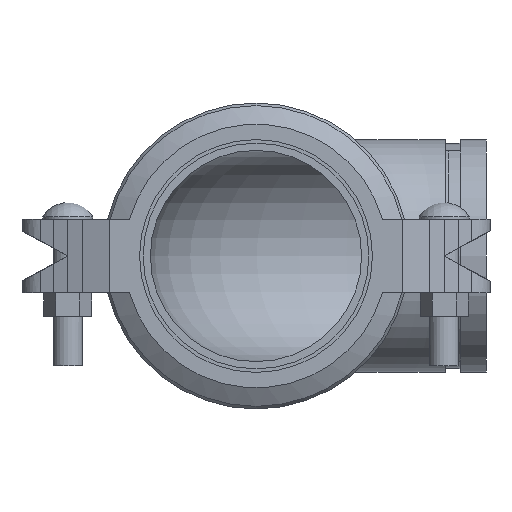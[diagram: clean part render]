
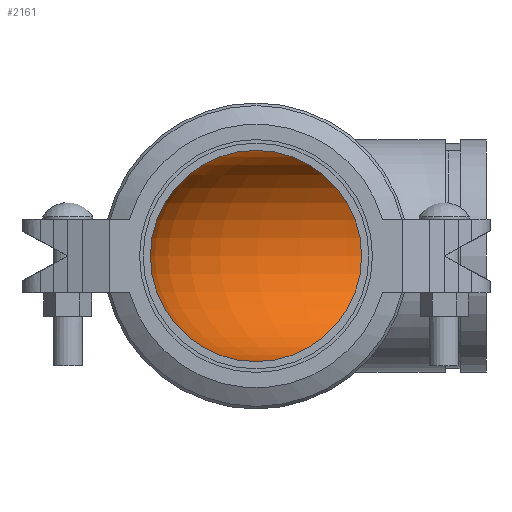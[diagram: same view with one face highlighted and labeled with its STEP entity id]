
A CAD part, left-side view. The second image highlights one B-rep face of the part: STEP entity #2161.
In plain terms, the highlighted toroidal (fillet/blend) face has major radius 116.688 mm and minor radius 64.097 mm.
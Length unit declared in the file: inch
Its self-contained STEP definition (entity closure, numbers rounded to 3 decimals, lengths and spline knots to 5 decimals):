
#62=TOROIDAL_SURFACE('',#2390,4.594,2.5235);
#476=FACE_OUTER_BOUND('',#597,.T.);
#597=EDGE_LOOP('',(#1379,#1380,#1381,#1382,#1383,#1384));
#735=CIRCLE('',#2387,2.5235);
#736=CIRCLE('',#2388,2.5235);
#738=CIRCLE('',#2391,2.5235);
#739=CIRCLE('',#2392,2.0705);
#740=CIRCLE('',#2393,2.5235);
#847=VERTEX_POINT('',#3576);
#848=VERTEX_POINT('',#3577);
#850=VERTEX_POINT('',#3584);
#851=VERTEX_POINT('',#3585);
#1055=EDGE_CURVE('',#847,#848,#735,.T.);
#1056=EDGE_CURVE('',#848,#847,#736,.T.);
#1059=EDGE_CURVE('',#850,#851,#738,.T.);
#1060=EDGE_CURVE('',#851,#848,#739,.T.);
#1061=EDGE_CURVE('',#851,#850,#740,.T.);
#1379=ORIENTED_EDGE('',*,*,#1059,.T.);
#1380=ORIENTED_EDGE('',*,*,#1060,.T.);
#1381=ORIENTED_EDGE('',*,*,#1055,.F.);
#1382=ORIENTED_EDGE('',*,*,#1056,.F.);
#1383=ORIENTED_EDGE('',*,*,#1060,.F.);
#1384=ORIENTED_EDGE('',*,*,#1061,.T.);
#2161=ADVANCED_FACE('',(#476),#62,.F.);
#2387=AXIS2_PLACEMENT_3D('',#3578,#2656,#2657);
#2388=AXIS2_PLACEMENT_3D('',#3579,#2658,#2659);
#2390=AXIS2_PLACEMENT_3D('',#3583,#2663,#2664);
#2391=AXIS2_PLACEMENT_3D('',#3586,#2665,#2666);
#2392=AXIS2_PLACEMENT_3D('',#3587,#2667,#2668);
#2393=AXIS2_PLACEMENT_3D('',#3588,#2669,#2670);
#2656=DIRECTION('center_axis',(0.,1.,0.));
#2657=DIRECTION('ref_axis',(1.,0.,0.));
#2658=DIRECTION('center_axis',(0.,1.,0.));
#2659=DIRECTION('ref_axis',(1.,0.,0.));
#2663=DIRECTION('center_axis',(0.,0.,1.));
#2664=DIRECTION('ref_axis',(1.,0.,0.));
#2665=DIRECTION('center_axis',(1.,0.,0.));
#2666=DIRECTION('ref_axis',(0.,-1.,0.));
#2667=DIRECTION('center_axis',(0.,0.,1.));
#2668=DIRECTION('ref_axis',(1.,0.,0.));
#2669=DIRECTION('center_axis',(1.,0.,0.));
#2670=DIRECTION('ref_axis',(0.,-1.,0.));
#3576=CARTESIAN_POINT('',(-2.5235,-4.594,0.));
#3577=CARTESIAN_POINT('',(2.5235,-4.594,0.));
#3578=CARTESIAN_POINT('Origin',(0.,-4.594,0.));
#3579=CARTESIAN_POINT('Origin',(0.,-4.594,0.));
#3583=CARTESIAN_POINT('Origin',(4.594,-4.594,0.));
#3584=CARTESIAN_POINT('',(4.594,2.5235,0.));
#3585=CARTESIAN_POINT('',(4.594,-2.5235,0.));
#3586=CARTESIAN_POINT('Origin',(4.594,0.,0.));
#3587=CARTESIAN_POINT('Origin',(4.594,-4.594,0.));
#3588=CARTESIAN_POINT('Origin',(4.594,0.,0.));
